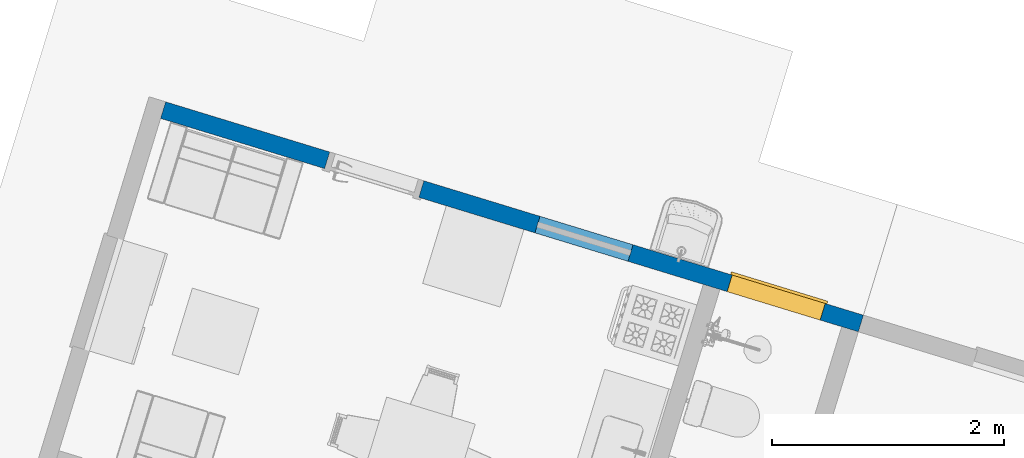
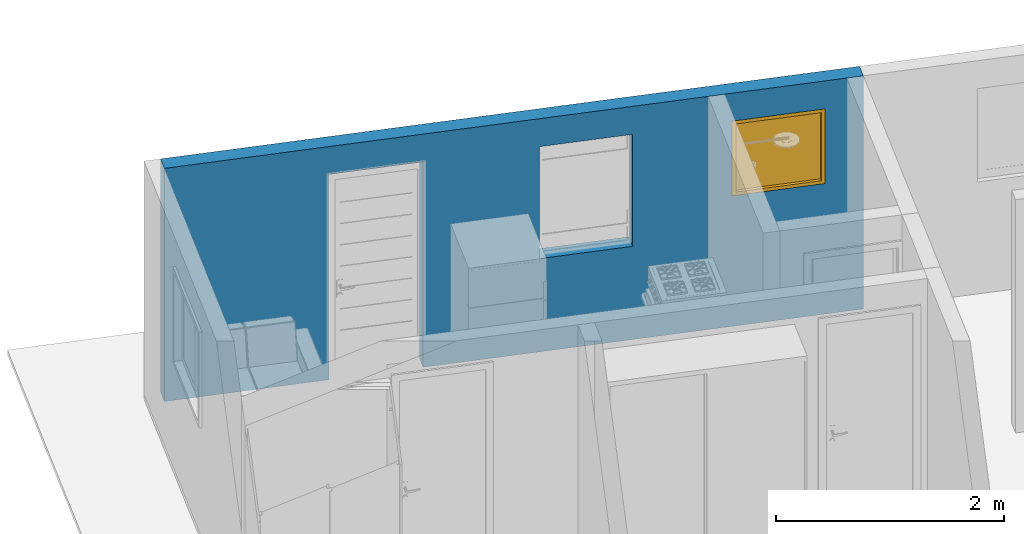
# One storey, part 5 of 13: 1 wall, 1 window, 3 openings.
"""IFC2X3 building model written with IfcOpenShell, lengths in millimetres."""

import ifcopenshell
import ifcopenshell.guid

model = None  # the IFC model being written
_history = None  # IfcOwnerHistory: only IFC2X3 demands one
_inside = {}  # id of a spatial element -> (the spatial element, [elements in it])
_under = {}  # id of a project, library or spatial element -> (it, [spatial elements below it])
_declared = {}  # id of a project -> (the project, [libraries it declares])
_typed = {}  # id of a type object -> (the type object, [elements of that type])
_made_of = {}  # id of a material, layer set ... -> (it, [elements and type objects made of it])


def new_model(schema):
    """Start an empty IFC model of exactly this schema.

    Asked for "IFC4X3", IfcOpenShell would pick the latest addendum, in which some entities
    have other attributes; the version numbers below select the first issue.
    IFC2X3 requires an IfcOwnerHistory on every rooted entity: one is made here for all.
    """
    global model, _history
    if schema == "IFC4X3":
        model = ifcopenshell.file(schema_version=(4, 3, 0, 0))
    else:
        model = ifcopenshell.file(schema=schema)
    _inside.clear()
    _under.clear()
    _declared.clear()
    _typed.clear()
    _made_of.clear()
    _history = None
    if model.schema == "IFC2X3":
        org = make("IfcOrganization", Name="unknown")
        user = make(
            "IfcPersonAndOrganization",
            ThePerson=make("IfcPerson", FamilyName="unknown"),
            TheOrganization=org,
        )
        app = make(
            "IfcApplication",
            ApplicationDeveloper=org,
            Version="unknown",
            ApplicationFullName="unknown",
            ApplicationIdentifier="unknown",
        )
        _history = make(
            "IfcOwnerHistory",
            OwningUser=user,
            OwningApplication=app,
            ChangeAction="ADDED",
            CreationDate=0,
        )
    return model


def make(cls, **values):
    """One entity of the class cls with the attributes given. An attribute that is None is left unset."""
    return model.create_entity(
        cls, **{name: value for name, value in values.items() if value is not None}
    )


def entity(cls, *values):
    """Any entity or typed value of the class cls, its attributes in the order of the schema. None: left unset."""
    e = model.create_entity(cls)
    for i, value in enumerate(values):
        if value is not None:
            e[i] = value
    return e


def rooted(cls, **values):
    """An entity with a GlobalId (a new one), such as an element, a storey or a relation."""
    return make(cls, GlobalId=ifcopenshell.guid.new(), OwnerHistory=_history, **values)


def si_unit(unit_type, name, prefix=None):
    """IfcSIUnit, for example si_unit("LENGTHUNIT", "METRE", prefix="MILLI")."""
    return make("IfcSIUnit", UnitType=unit_type, Prefix=prefix, Name=name)


def converted_unit(unit_type, name, factor, base, dimensions=None, offset=None):
    """IfcConversionBasedUnit, such as the inch: factor (a typed value) times the base unit."""
    return make(
        "IfcConversionBasedUnit"
        if offset is None
        else "IfcConversionBasedUnitWithOffset",
        ConversionOffset=offset,
        Dimensions=None
        if dimensions is None
        else entity("IfcDimensionalExponents", *dimensions),
        UnitType=unit_type,
        Name=name,
        ConversionFactor=make(
            "IfcMeasureWithUnit", ValueComponent=factor, UnitComponent=base
        ),
    )


def derived_unit(unit_type, elements):
    """IfcDerivedUnit: a product of units, each with its exponent."""
    return make(
        "IfcDerivedUnit",
        Elements=[
            make("IfcDerivedUnitElement", Unit=unit, Exponent=power)
            for unit, power in elements
        ],
        UnitType=unit_type,
    )


def money_unit(currency):
    """IfcMonetaryUnit."""
    return make("IfcMonetaryUnit", Currency=currency)


def assignment(units):
    """IfcUnitAssignment: the units of a project."""
    return None if units is None else make("IfcUnitAssignment", Units=units)


def point(xyz):
    """IfcCartesianPoint."""
    return None if xyz is None else make("IfcCartesianPoint", Coordinates=xyz)


def direction(xyz):
    """IfcDirection."""
    return None if xyz is None else make("IfcDirection", DirectionRatios=xyz)


def frame(location, z_axis=None, x_axis=None):
    """IfcAxis2Placement3D, a coordinate frame: its origin and axes. An axis left out is left unset."""
    return make(
        "IfcAxis2Placement3D",
        Location=point(location),
        Axis=direction(z_axis),
        RefDirection=direction(x_axis),
    )


def origin_with_axes():
    """The frame at (0, 0, 0) with the z axis (0, 0, 1) and the x axis (1, 0, 0) written out."""
    return frame((0.0, 0.0, 0.0), z_axis=(0.0, 0.0, 1.0), x_axis=(1.0, 0.0, 0.0))


def place(relative_to, where):
    """IfcLocalPlacement: puts the frame where relative to a parent placement (None: the world)."""
    return make(
        "IfcLocalPlacement", PlacementRelTo=relative_to, RelativePlacement=where
    )


def context(
    kind, dimensions, precision=None, world=None, true_north=None, identifier=None
):
    """IfcGeometricRepresentationContext, for example the 3D "Model" context."""
    return make(
        "IfcGeometricRepresentationContext",
        ContextIdentifier=identifier,
        ContextType=kind,
        CoordinateSpaceDimension=dimensions,
        Precision=precision,
        WorldCoordinateSystem=world,
        TrueNorth=true_north,
    )


def subcontext(parent, identifier, kind, view, scale=None):
    """IfcGeometricRepresentationSubContext, for example "Body" below "Model"."""
    return make(
        "IfcGeometricRepresentationSubContext",
        ContextIdentifier=identifier,
        ContextType=kind,
        ParentContext=parent,
        TargetScale=scale,
        TargetView=view,
    )


def project(units=None, contexts=None):
    """IfcProject with its units and contexts."""
    return rooted(
        "IfcProject",
        Name="project",
        RepresentationContexts=contexts,
        UnitsInContext=assignment(units),
    )


def spatial(cls, under=None, at=None, **own):
    """A site, building, storey or space (cls), placed at a placement, below another one or the project."""
    s = rooted(cls, ObjectPlacement=at, **own)
    if under is not None:
        _under.setdefault(under.id(), (under, []))[1].append(s)
    return s


def faces_of(points, faces, orient=None, outer=None):
    """IfcFace entities. A face is a list of loops; a loop is a list of indices into points, from 0.

    orient and outer hold one flag for each loop. By default every Orientation is true, the
    first loop of a face is its IfcFaceOuterBound and the others are IfcFaceBound.
    """
    made = []
    for i, loops in enumerate(faces):
        bounds = []
        for j, loop in enumerate(loops):
            is_outer = j == 0 if outer is None else outer[i][j]
            bounds.append(
                make(
                    "IfcFaceOuterBound" if is_outer else "IfcFaceBound",
                    Bound=make("IfcPolyLoop", Polygon=[points[k] for k in loop]),
                    Orientation=True if orient is None else orient[i][j],
                )
            )
        made.append(make("IfcFace", Bounds=bounds))
    return made


def open_shell(faces, orient=None, outer=None):
    """The faces of one IfcOpenShell. surface_model builds it on its shared points."""
    return ("IfcOpenShell", faces, orient, outer)


def faceted_brep(points, faces, orient=None, outer=None, voids=None):
    """IfcFacetedBrep: a solid bounded by flat faces; with voids (closed shells), ...WithVoids."""
    shared = [point(p) for p in points]
    hull = make("IfcClosedShell", CfsFaces=faces_of(shared, faces, orient, outer))
    if voids is None:
        return make("IfcFacetedBrep", Outer=hull)
    return make(
        "IfcFacetedBrepWithVoids",
        Outer=hull,
        Voids=[
            make(cls, CfsFaces=faces_of(shared, fs, o, b)) for cls, fs, o, b in voids
        ],
    )


def surface_model(cls, points, shells):
    """IfcFaceBasedSurfaceModel or IfcShellBasedSurfaceModel (cls): surfaces that need not close."""
    shared = [point(p) for p in points]
    made = [make(c, CfsFaces=faces_of(shared, fs, o, b)) for c, fs, o, b in shells]
    if cls == "IfcFaceBasedSurfaceModel":
        return make(cls, FbsmFaces=made)
    return make(cls, SbsmBoundary=made)


def shape(context_of_items, identifier, shape_type, items):
    """IfcShapeRepresentation: the items that make up one representation, for example the "Body"."""
    return make(
        "IfcShapeRepresentation",
        ContextOfItems=context_of_items,
        RepresentationIdentifier=identifier,
        RepresentationType=shape_type,
        Items=items,
    )


def material(Name=None, Category=None):
    """IfcMaterial."""
    return make("IfcMaterial", Name=Name, Category=Category)


def made_of(thing, what):
    """Note that an element or type object is made of a material, layer set ...; save() writes the relation."""
    if what is not None:
        _made_of.setdefault(what.id(), (what, []))[1].append(thing)
    return thing


def type_object(cls, material=None, **own):
    """A type object (cls), such as IfcWallType, which elements share."""
    return made_of(rooted(cls, **own), material)


def element(
    cls,
    number,
    at=None,
    inside=None,
    cuts=None,
    type_object=None,
    material=None,
    context=None,
    identifier="Body",
    shape_type=None,
    held_by="IfcProductDefinitionShape",
    body=None,
    shapes=None,
    **own,
):
    """One element of the class cls, such as IfcWall. Its Tag is "e" and its number.

    at: its placement. inside: the storey or other place that contains it. cuts: it is an
    opening in that element (IfcRelVoidsElement). A single representation is given by context,
    identifier, shape_type and body (its items); several are given by shapes. held_by: the class
    of the entity that holds the representations. save() writes the other relations.
    """
    e = rooted(cls, Tag="e%d" % number, ObjectPlacement=at, **own)
    if body is not None:
        shapes = [shape(context, identifier, shape_type, body)]
    if shapes is not None:
        e.Representation = make(held_by, Representations=shapes)
    if inside is not None:
        _inside.setdefault(inside.id(), (inside, []))[1].append(e)
    if cuts is not None:
        rooted(
            "IfcRelVoidsElement", RelatingBuildingElement=cuts, RelatedOpeningElement=e
        )
    if type_object is not None:
        _typed.setdefault(type_object.id(), (type_object, []))[1].append(e)
    return made_of(e, material)


def fill(opening, filler):
    """IfcRelFillsElement: the door or window that sits in an opening."""
    return rooted(
        "IfcRelFillsElement",
        RelatingOpeningElement=opening,
        RelatedBuildingElement=filler,
    )


def aggregate(whole, parts):
    """IfcRelAggregates: a whole, such as a stair, and the parts it consists of."""
    return rooted("IfcRelAggregates", RelatingObject=whole, RelatedObjects=parts)


def save(model, path):
    """Write the relations noted so far, then the file.

    IfcRelAggregates (storeys below a building ...), IfcRelContainedInSpatialStructure (elements
    in a storey), IfcRelDefinesByType, IfcRelAssociatesMaterial and IfcRelDeclares: one each for
    every whole, place, type object, material and project.
    """
    for whole, parts in _under.values():
        aggregate(whole, parts)
    for where, things in _inside.values():
        rooted(
            "IfcRelContainedInSpatialStructure",
            RelatedElements=things,
            RelatingStructure=where,
        )
    for kind, things in _typed.values():
        rooted("IfcRelDefinesByType", RelatedObjects=things, RelatingType=kind)
    for what, things in _made_of.values():
        rooted("IfcRelAssociatesMaterial", RelatedObjects=things, RelatingMaterial=what)
    for by, libraries in _declared.values():
        rooted("IfcRelDeclares", RelatingContext=by, RelatedDefinitions=libraries)
    model.write(path)


model = new_model("IFC2X3")

# Units and contexts
model_context = context("Model", 3, precision=0.01, world=origin_with_axes(), true_north=direction((0.0, 1.0)))
body_context = subcontext(model_context, "Body", "Model", "MODEL_VIEW")
ifc_project = project(units=[si_unit("LENGTHUNIT", "METRE", prefix="MILLI"), si_unit("AREAUNIT", "SQUARE_METRE"), si_unit("VOLUMEUNIT", "CUBIC_METRE"), converted_unit("PLANEANGLEUNIT", "DEGREE", entity("IfcPlaneAngleMeasure", 0.0174532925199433), si_unit("PLANEANGLEUNIT", "RADIAN"), dimensions=[0, 0, 0, 0, 0, 0, 0]), money_unit("USD"), converted_unit("TIMEUNIT", "Year", entity("IfcTimeMeasure", 31557600.0), si_unit("TIMEUNIT", "SECOND"), dimensions=[0, 0, 1, 0, 0, 0, 0]), si_unit("MASSUNIT", "GRAM", prefix="KILO"), si_unit("THERMODYNAMICTEMPERATUREUNIT", "DEGREE_CELSIUS"), si_unit("LUMINOUSINTENSITYUNIT", "LUMEN"), si_unit("ENERGYUNIT", "JOULE", prefix="MEGA"), derived_unit("THERMALCONDUCTANCEUNIT", [(si_unit("POWERUNIT", "WATT"), 1), (si_unit("LENGTHUNIT", "METRE"), -1), (si_unit("THERMODYNAMICTEMPERATUREUNIT", "KELVIN"), -1)]), derived_unit("SPECIFICHEATCAPACITYUNIT", [(si_unit("ENERGYUNIT", "JOULE"), 1), (si_unit("MASSUNIT", "GRAM", prefix="KILO"), -1), (si_unit("THERMODYNAMICTEMPERATUREUNIT", "KELVIN"), -1)]), derived_unit("MASSDENSITYUNIT", [(si_unit("MASSUNIT", "GRAM", prefix="KILO"), 1), (si_unit("VOLUMEUNIT", "CUBIC_METRE"), -1)])], contexts=[model_context])

# Site, building, storey
site_placement = place(None, frame((0.0, 0.0, 0.0), z_axis=(0.0, 0.0, 1.0), x_axis=(0.9563047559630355, -0.2923717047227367, 0.0)))
site = spatial("IfcSite", under=ifc_project, at=site_placement, Name="Site", CompositionType="ELEMENT")
building_placement = place(site_placement, origin_with_axes())
building = spatial("IfcBuilding", under=site, at=building_placement, Name="Casa Térrea Isolada", CompositionType="ELEMENT")
storey_placement = place(building_placement, origin_with_axes())
storey = spatial("IfcBuildingStorey", under=building, at=storey_placement, Name="Terreo", CompositionType="ELEMENT", Elevation=0.0)

# Wall, openings, window
ifc_material = material(Name="Bloco de Concreto - Estrutural")
wall_type = type_object("IfcWallType", Name="Bloco de Concreto - Estrutural 150", PredefinedType="NOTDEFINED")
wall_placement = place(storey_placement, frame((6374.999977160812, 6375.002939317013, 0.0), z_axis=(0.0, 0.0, 1.0), x_axis=(-0.9999999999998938, -4.610697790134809e-07, 0.0)))
wall = element("IfcWall", 1, at=wall_placement, inside=storey, type_object=wall_type, material=ifc_material, Name="Parede 01", context=body_context, shape_type="Brep", body=[
    faceted_brep([(4743.601821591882, -75.00000000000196, 2200.0), (4743.601821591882, -75.00000000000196, 0.0), (6224.999942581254, -75.00000000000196, 0.0), (6224.999942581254, -75.00000000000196, 2500.0), (-74.99999999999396, -75.00000000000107, 2500.0), (-74.99999999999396, -75.00000000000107, 0.0), (3893.601821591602, -75.00000000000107, 0.0), (3893.601821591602, -75.00000000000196, 2200.0), (1109.997095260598, -75.00000000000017, 2200.0), (1109.997095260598, -75.00000000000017, 1400.0), (269.9970952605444, -75.00000000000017, 1400.0), (269.9970952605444, -75.00000000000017, 2200.0), (2004.997164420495, -75.00000000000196, 1000.0), (2004.997164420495, -75.00000000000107, 2200.0), (2844.997164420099, -75.00000000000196, 2200.0), (2844.997164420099, -75.00000000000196, 1000.0), (4743.601821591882, 74.99999999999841, 2200.0), (4743.601821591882, 74.99999999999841, 0.0), (6224.999942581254, 74.99999999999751, 0.0), (6224.999942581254, 74.99999999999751, 2500.0), (-74.99999999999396, 74.99999999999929, 2500.0), (-74.99999999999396, 74.99999999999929, 0.0), (3893.601821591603, 74.99999999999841, 0.0), (3893.601821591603, 74.99999999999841, 2200.0), (1109.997095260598, 74.99999999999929, 1400.0), (1109.997095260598, 74.99999999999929, 2200.0), (269.9970952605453, 74.99999999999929, 1400.0), (269.9970952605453, 74.99999999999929, 2200.0), (2004.997164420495, 24.99999999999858, 1000.0), (2004.997164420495, 24.99999999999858, 2200.0), (2844.997164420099, 24.99999999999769, 2200.0), (2844.997164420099, 24.99999999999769, 1000.0), (2004.997164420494, 74.99999999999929, 2200.0), (2004.997164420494, 74.99999999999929, 1000.0), (2844.9971644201, 74.99999999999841, 1000.0), (2844.9971644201, 74.99999999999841, 2200.0)], [[[0, 1, 2, 3, 4, 5, 6, 7], [8, 9, 10, 11], [12, 13, 14, 15]], [[1, 0, 16, 17]], [[1, 17, 18, 2]], [[19, 3, 2, 18]], [[3, 19, 20, 4]], [[5, 4, 20, 21]], [[22, 6, 5, 21]], [[7, 6, 22, 23]], [[0, 7, 23, 16]], [[24, 9, 8, 25]], [[26, 10, 9, 24]], [[27, 11, 10, 26]], [[25, 8, 11, 27]], [[12, 28, 29, 13]], [[13, 29, 30, 14]], [[14, 30, 31, 15]], [[15, 31, 28, 12]], [[23, 22, 21, 20, 19, 18, 17, 16], [26, 24, 25, 27], [32, 33, 34, 35]], [[28, 33, 32, 29]], [[29, 32, 35, 30]], [[30, 35, 34, 31]], [[31, 34, 33, 28]]]),
])
opening_1_placement = place(wall_placement, frame((2424.997164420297, 0.0, 1000.0), z_axis=(0.0, 0.0, 1.0), x_axis=(1.0, 0.0, 0.0)))
element("IfcOpeningElement", 2, at=opening_1_placement, cuts=wall, Name="J02", context=body_context, shape_type="Brep", body=[
    faceted_brep([(-419.9999999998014, 24.99999999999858, 0.0), (-419.9999999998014, 24.99999999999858, 1200.0), (-419.9999999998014, 76.00290473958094, 1200.0), (-419.9999999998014, 76.00290473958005, 0.0), (-419.9999999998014, -76.00290473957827, 0.0), (-419.9999999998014, -76.00290473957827, 1200.0), (419.9999999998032, 24.99999999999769, 1200.0), (419.9999999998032, 76.00290473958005, 1200.0), (419.9999999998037, -76.00290473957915, 1200.0), (419.9999999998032, 76.00290473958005, 0.0), (419.9999999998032, 24.99999999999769, 0.0), (419.9999999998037, -76.00290473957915, 0.0)], [[[0, 1, 2, 3]], [[1, 0, 4, 5]], [[6, 7, 2, 1, 5, 8]], [[7, 9, 3, 2]], [[0, 3, 9, 10, 11, 4]], [[5, 4, 11, 8]], [[6, 10, 9, 7]], [[10, 6, 8, 11]]]),
])
opening_2_placement = place(wall_placement, frame((4318.601821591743, 0.0, 0.0), z_axis=(0.0, 0.0, 1.0), x_axis=(1.0, 0.0, 0.0)))
element("IfcOpeningElement", 3, at=opening_2_placement, cuts=wall, Name="Porta 01", context=body_context, shape_type="Brep", body=[
    faceted_brep([(425.0000000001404, 74.99999999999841, 2200.0), (-425.0000000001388, 74.99999999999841, 2200.0), (-425.0000000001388, -76.00290473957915, 2200.0), (425.0000000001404, -76.00290473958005, 2200.0), (-425.0000000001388, 74.99999999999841, 0.0), (425.0000000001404, 74.99999999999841, 0.0), (445.0000000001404, 74.99999999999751, 0.0), (445.0000000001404, 74.99999999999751, 2220.0), (-445.0000000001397, 74.99999999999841, 2220.0), (-445.0000000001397, 74.99999999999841, 0.0), (-425.0000000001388, -76.00290473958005, 0.0), (425.0000000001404, -76.00290473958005, 0.0), (425.0000000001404, 76.00290473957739, 0.0), (445.0000000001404, 76.00290473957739, 0.0), (445.0000000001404, 76.00290473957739, 2220.0), (-445.0000000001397, 76.00290473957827, 2220.0), (-445.0000000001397, 76.00290473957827, 0.0), (-425.0000000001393, 76.00290473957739, 0.0), (425.0000000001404, 76.00290473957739, 2200.0), (-425.0000000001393, 76.00290473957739, 2200.0)], [[[0, 1, 2, 3]], [[4, 1, 0, 5, 6, 7, 8, 9]], [[1, 4, 10, 2]], [[2, 10, 11, 3]], [[5, 0, 3, 11]], [[5, 12, 13, 6]], [[7, 6, 13, 14]], [[8, 7, 14, 15]], [[9, 8, 15, 16]], [[17, 4, 9, 16]], [[12, 5, 11, 10, 4, 17]], [[18, 19, 17, 16, 15, 14, 13, 12]], [[18, 12, 17, 19]]]),
])
opening_3_placement = place(wall_placement, frame((689.9970952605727, 0.0, 1400.0), z_axis=(0.0, 0.0, 1.0), x_axis=(1.0, 0.0, 0.0)))
opening_3 = element("IfcOpeningElement", 4, at=opening_3_placement, cuts=wall, Name="J03", context=body_context, shape_type="Brep", body=[
    faceted_brep([(-420.0000000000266, -75.00000000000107, 0.0), (-420.0000000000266, -75.00000000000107, 800.0000000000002), (-420.0000000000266, 76.00290473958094, 800.0000000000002), (-420.0000000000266, 76.00290473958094, 0.0), (435.0000000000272, -75.00000000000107, 815.0), (435.0000000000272, -75.00000000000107, -14.9999999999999), (-435.0000000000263, -75.00000000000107, -14.9999999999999), (-435.0000000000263, -75.00000000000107, 815.0), (420.0000000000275, -75.00000000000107, 800.0000000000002), (420.0000000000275, -75.00000000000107, 0.0), (420.0000000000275, 76.00290473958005, 800.0000000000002), (420.0000000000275, 76.00290473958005, 0.0), (435.0000000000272, -76.00290473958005, 815.0), (435.0000000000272, -76.00290473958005, -14.9999999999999), (-435.0000000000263, -76.00290473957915, -14.9999999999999), (-435.0000000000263, -76.00290473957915, 815.0)], [[[0, 1, 2, 3]], [[4, 5, 6, 7], [8, 1, 0, 9]], [[1, 8, 10, 2]], [[11, 3, 2, 10]], [[9, 0, 3, 11]], [[5, 4, 12, 13]], [[6, 5, 13, 14]], [[7, 6, 14, 15]], [[4, 7, 15, 12]], [[8, 9, 11, 10]], [[14, 13, 12, 15]]]),
])
window_style = type_object("IfcWindowStyle", Name="Janela 26", ConstructionType="NOTDEFINED", OperationType="SINGLE_PANEL", ParameterTakesPrecedence=False, Sizeable=False)
window_placement = place(opening_3_placement, frame((420.0000000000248, 0.0, 0.0), z_axis=(0.0, 0.0, 1.0), x_axis=(-1.0, 0.0, 0.0)))
window = element("IfcWindow", 5, at=window_placement, inside=storey, type_object=window_style, Name="J03", OverallHeight=800.0, OverallWidth=840.0, context=body_context, shape_type="SurfaceModel", body=[
    faceted_brep([(840.0000000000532, -24.99999999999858, 0.0), (0.0, -24.99999999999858, 0.0), (0.0, 75.00000000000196, 0.0), (840.0000000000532, 75.00000000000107, 0.0), (840.0000000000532, -24.99999999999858, 800.0000000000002), (0.0, -24.99999999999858, 800.0000000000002), (815.0000000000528, -24.99999999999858, 24.99999999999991), (24.99999999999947, -24.99999999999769, 24.99999999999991), (24.99999999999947, -24.99999999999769, 774.9999999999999), (815.0000000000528, -24.99999999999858, 774.9999999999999), (0.0, 75.00000000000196, 800.0000000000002), (840.0000000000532, 75.00000000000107, 800.0000000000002), (815.0000000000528, 75.00000000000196, 24.99999999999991), (815.0000000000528, 75.00000000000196, 774.9999999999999), (24.99999999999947, 75.00000000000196, 774.9999999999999), (24.99999999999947, 75.00000000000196, 24.99999999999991)], [[[0, 1, 2, 3]], [[0, 4, 5, 1], [6, 7, 8, 9]], [[1, 5, 10, 2]], [[3, 2, 10, 11], [12, 13, 14, 15]], [[4, 0, 3, 11]], [[5, 4, 11, 10]], [[7, 6, 12, 15]], [[8, 7, 15, 14]], [[9, 8, 14, 13]], [[6, 9, 13, 12]]]),
    faceted_brep([(855.0000000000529, 100.0000000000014, -15.00000000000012), (855.0000000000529, 75.00000000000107, -14.9999999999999), (815.0000000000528, 75.00000000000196, 24.99999999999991), (815.0000000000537, 100.0000000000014, 24.99999999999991), (855.0000000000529, 100.0000000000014, 815.0), (855.0000000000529, 75.00000000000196, 815.0), (815.0000000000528, 75.00000000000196, 774.9999999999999), (815.0000000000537, 100.0000000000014, 774.9999999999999)], [[[0, 1, 2, 3]], [[4, 5, 1, 0]], [[1, 5, 6, 2]], [[3, 2, 6, 7]], [[0, 3, 7, 4]], [[7, 6, 5, 4]]]),
    faceted_brep([(-15.00000000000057, 100.0000000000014, 815.0), (-15.00000000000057, 75.00000000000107, 815.0), (24.99999999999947, 75.00000000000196, 774.9999999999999), (24.99999999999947, 100.0000000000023, 774.9999999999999), (-15.00000000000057, 100.0000000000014, -15.00000000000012), (-15.00000000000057, 75.00000000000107, -14.9999999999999), (24.99999999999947, 75.00000000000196, 24.99999999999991), (24.99999999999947, 100.0000000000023, 24.99999999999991)], [[[0, 1, 2, 3]], [[4, 5, 1, 0]], [[1, 5, 6, 2]], [[3, 2, 6, 7]], [[0, 3, 7, 4]], [[7, 6, 5, 4]]]),
    faceted_brep([(-15.00000000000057, 100.0000000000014, -15.00000000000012), (-15.00000000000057, 75.00000000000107, -14.9999999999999), (24.99999999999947, 75.00000000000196, 24.99999999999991), (24.99999999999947, 100.0000000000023, 24.99999999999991), (855.0000000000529, 100.0000000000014, -15.00000000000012), (855.0000000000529, 75.00000000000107, -14.9999999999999), (815.0000000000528, 75.00000000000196, 24.99999999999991), (815.0000000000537, 100.0000000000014, 24.99999999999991)], [[[0, 1, 2, 3]], [[4, 5, 1, 0]], [[1, 5, 6, 2]], [[3, 2, 6, 7]], [[0, 3, 7, 4]], [[7, 6, 5, 4]]]),
    faceted_brep([(855.0000000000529, 100.0000000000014, 815.0), (855.0000000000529, 75.00000000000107, 815.0), (815.0000000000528, 75.00000000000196, 774.9999999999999), (815.0000000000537, 100.0000000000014, 774.9999999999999), (-15.00000000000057, 100.0000000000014, 815.0), (-15.00000000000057, 75.00000000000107, 815.0), (24.99999999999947, 75.00000000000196, 774.9999999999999), (24.99999999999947, 100.0000000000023, 774.9999999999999)], [[[0, 1, 2, 3]], [[4, 5, 1, 0]], [[1, 5, 6, 2]], [[3, 2, 6, 7]], [[0, 3, 7, 4]], [[7, 6, 5, 4]]]),
    faceted_brep([(825.0000000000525, -24.99999999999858, 765.0000000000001), (825.0000000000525, -44.99999999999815, 765.0000000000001), (805.000000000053, -44.99999999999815, 765.0000000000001), (805.000000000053, -74.99999999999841, 765.0000000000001), (840.0000000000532, -74.99999999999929, 765.0000000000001), (840.0000000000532, -24.99999999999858, 765.0000000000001), (825.0000000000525, -24.99999999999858, 35.00000000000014), (825.0000000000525, -44.99999999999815, 35.00000000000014), (805.000000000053, -44.99999999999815, 35.00000000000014), (805.000000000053, -74.99999999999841, 35.00000000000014), (840.0000000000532, -74.99999999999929, 35.00000000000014), (840.0000000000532, -24.99999999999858, 35.00000000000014)], [[[0, 1, 2, 3, 4, 5]], [[1, 0, 6, 7]], [[8, 2, 1, 7]], [[2, 8, 9, 3]], [[4, 3, 9, 10]], [[5, 4, 10, 11]], [[6, 0, 5, 11]], [[7, 6, 11, 10, 9, 8]]]),
    faceted_brep([(34.99999999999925, -44.99999999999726, 765.0000000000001), (14.99999999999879, -44.99999999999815, 765.0000000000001), (14.99999999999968, -24.99999999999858, 765.0000000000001), (0.0, -24.99999999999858, 765.0000000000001), (0.0, -74.99999999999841, 765.0000000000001), (34.99999999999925, -74.99999999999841, 765.0000000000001), (34.99999999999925, -44.99999999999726, 35.00000000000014), (14.99999999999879, -44.99999999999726, 35.00000000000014), (14.99999999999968, -24.99999999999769, 35.00000000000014), (0.0, -24.99999999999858, 35.00000000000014), (0.0, -74.99999999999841, 35.00000000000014), (34.99999999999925, -74.99999999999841, 35.00000000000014)], [[[0, 1, 2, 3, 4, 5]], [[1, 0, 6, 7]], [[8, 2, 1, 7]], [[2, 8, 9, 3]], [[9, 10, 4, 3]], [[10, 11, 5, 4]], [[6, 0, 5, 11]], [[7, 6, 11, 10, 9, 8]]]),
    faceted_brep([(34.99999999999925, -44.99999999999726, 35.00000000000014), (14.99999999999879, -44.99999999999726, 35.00000000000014), (14.99999999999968, -24.99999999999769, 35.00000000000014), (0.0, -24.99999999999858, 35.00000000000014), (0.0, -74.99999999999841, 35.00000000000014), (34.99999999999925, -74.99999999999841, 35.00000000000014), (805.000000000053, -44.99999999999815, 35.00000000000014), (825.0000000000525, -44.99999999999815, 35.00000000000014), (825.0000000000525, -44.99999999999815, 14.9999999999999), (14.99999999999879, -44.99999999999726, 14.9999999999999), (14.99999999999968, -24.99999999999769, 15.00000000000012), (825.0000000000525, -24.99999999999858, 15.00000000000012), (825.0000000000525, -24.99999999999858, 35.00000000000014), (840.0000000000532, -24.99999999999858, 35.00000000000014), (840.0000000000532, -24.99999999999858, 0.0), (0.0, -24.99999999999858, 0.0), (0.0, -74.99999999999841, 0.0), (840.0000000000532, -74.99999999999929, 35.00000000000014), (805.000000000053, -74.99999999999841, 35.00000000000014), (840.0000000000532, -74.99999999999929, 0.0)], [[[0, 1, 2, 3, 4, 5]], [[1, 0, 6, 7, 8, 9]], [[10, 2, 1, 9]], [[11, 12, 13, 14, 15, 3, 2, 10]], [[15, 16, 4, 3]], [[17, 18, 5, 4, 16, 19]], [[6, 0, 5, 18]], [[7, 6, 18, 17, 13, 12]], [[7, 12, 11, 8]], [[11, 10, 9, 8]], [[13, 17, 19, 14]], [[14, 19, 16, 15]]]),
    faceted_brep([(825.0000000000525, -24.99999999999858, 765.0000000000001), (825.0000000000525, -24.99999999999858, 785.0000000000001), (14.99999999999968, -24.99999999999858, 785.0000000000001), (14.99999999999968, -24.99999999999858, 765.0000000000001), (0.0, -24.99999999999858, 765.0000000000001), (0.0, -24.99999999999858, 800.0000000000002), (840.0000000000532, -24.99999999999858, 800.0000000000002), (840.0000000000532, -24.99999999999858, 765.0000000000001), (825.0000000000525, -44.99999999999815, 765.0000000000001), (825.0000000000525, -44.99999999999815, 785.0000000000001), (14.99999999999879, -44.99999999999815, 785.0000000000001), (14.99999999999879, -44.99999999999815, 765.0000000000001), (34.99999999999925, -44.99999999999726, 765.0000000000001), (34.99999999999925, -74.99999999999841, 765.0000000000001), (0.0, -74.99999999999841, 765.0000000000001), (0.0, -74.99999999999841, 800.0000000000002), (840.0000000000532, -74.99999999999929, 800.0000000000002), (840.0000000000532, -74.99999999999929, 765.0000000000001), (805.000000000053, -74.99999999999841, 765.0000000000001), (805.000000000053, -44.99999999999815, 765.0000000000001)], [[[0, 1, 2, 3, 4, 5, 6, 7]], [[1, 0, 8, 9]], [[2, 1, 9, 10]], [[3, 2, 10, 11]], [[11, 12, 13, 14, 4, 3]], [[4, 14, 15, 5]], [[5, 15, 16, 6]], [[6, 16, 17, 7]], [[8, 0, 7, 17, 18, 19]], [[12, 11, 10, 9, 8, 19]], [[12, 19, 18, 13]], [[14, 13, 18, 17, 16, 15]]]),
    faceted_brep([(775.0000000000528, -44.99999999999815, 734.9999999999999), (825.0000000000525, -44.99999999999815, 734.9999999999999), (825.0000000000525, -24.99999999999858, 734.9999999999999), (775.0000000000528, -24.99999999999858, 734.9999999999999), (775.0000000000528, -44.99999999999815, 64.99999999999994), (825.0000000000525, -44.99999999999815, 64.99999999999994), (825.0000000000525, -24.99999999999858, 64.99999999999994), (775.0000000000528, -24.99999999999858, 64.99999999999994)], [[[0, 1, 2, 3]], [[0, 4, 5, 1]], [[1, 5, 6, 2]], [[3, 2, 6, 7]], [[4, 0, 3, 7]], [[5, 4, 7, 6]]]),
    faceted_brep([(64.99999999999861, -44.99999999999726, 64.99999999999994), (14.99999999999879, -44.99999999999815, 64.99999999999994), (14.99999999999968, -24.99999999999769, 64.99999999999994), (64.9999999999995, -24.99999999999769, 64.99999999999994), (64.99999999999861, -44.99999999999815, 734.9999999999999), (14.99999999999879, -44.99999999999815, 734.9999999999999), (14.99999999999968, -24.99999999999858, 734.9999999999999), (64.9999999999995, -24.99999999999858, 734.9999999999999)], [[[0, 1, 2, 3]], [[0, 4, 5, 1]], [[1, 5, 6, 2]], [[3, 2, 6, 7]], [[4, 0, 3, 7]], [[5, 4, 7, 6]]]),
    faceted_brep([(14.99999999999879, -44.99999999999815, 14.9999999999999), (14.99999999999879, -44.99999999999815, 64.99999999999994), (14.99999999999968, -24.99999999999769, 64.99999999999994), (14.99999999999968, -24.99999999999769, 14.9999999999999), (825.0000000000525, -44.99999999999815, 14.9999999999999), (825.0000000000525, -44.99999999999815, 64.99999999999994), (775.0000000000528, -44.99999999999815, 64.99999999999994), (64.99999999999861, -44.99999999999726, 64.99999999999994), (64.9999999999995, -24.99999999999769, 64.99999999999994), (775.0000000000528, -24.99999999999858, 64.99999999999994), (825.0000000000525, -24.99999999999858, 64.99999999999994), (825.0000000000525, -24.99999999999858, 14.9999999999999)], [[[0, 1, 2, 3]], [[0, 4, 5, 6, 7, 1]], [[1, 7, 8, 2]], [[3, 2, 8, 9, 10, 11]], [[4, 0, 3, 11]], [[5, 4, 11, 10]], [[6, 5, 10, 9]], [[7, 6, 9, 8]]]),
    faceted_brep([(825.0000000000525, -44.99999999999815, 785.0000000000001), (825.0000000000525, -44.99999999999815, 734.9999999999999), (825.0000000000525, -24.99999999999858, 734.9999999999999), (825.0000000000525, -24.99999999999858, 785.0000000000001), (14.99999999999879, -44.99999999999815, 785.0000000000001), (14.99999999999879, -44.99999999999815, 734.9999999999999), (64.99999999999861, -44.99999999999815, 734.9999999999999), (775.0000000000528, -44.99999999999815, 734.9999999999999), (775.0000000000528, -24.99999999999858, 734.9999999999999), (64.9999999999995, -24.99999999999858, 734.9999999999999), (14.99999999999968, -24.99999999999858, 734.9999999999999), (14.99999999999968, -24.99999999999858, 785.0000000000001)], [[[0, 1, 2, 3]], [[0, 4, 5, 6, 7, 1]], [[1, 7, 8, 2]], [[3, 2, 8, 9, 10, 11]], [[4, 0, 3, 11]], [[5, 4, 11, 10]], [[6, 5, 10, 9]], [[7, 6, 9, 8]]]),
    surface_model("IfcShellBasedSurfaceModel", [(775.0000000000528, -44.99999999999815, 64.99999999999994), (775.0000000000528, -44.99999999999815, 734.9999999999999), (64.99999999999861, -44.99999999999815, 734.9999999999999), (64.99999999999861, -44.99999999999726, 64.99999999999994)], [open_shell([[[0, 1, 2, 3]]])]),
    surface_model("IfcShellBasedSurfaceModel", [(775.0000000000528, -24.99999999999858, 64.99999999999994), (64.9999999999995, -24.99999999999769, 64.99999999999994), (64.9999999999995, -24.99999999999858, 734.9999999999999), (775.0000000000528, -24.99999999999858, 734.9999999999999)], [open_shell([[[0, 1, 2, 3]]])]),
])
fill(opening_3, window)

save(model, "model.ifc")
